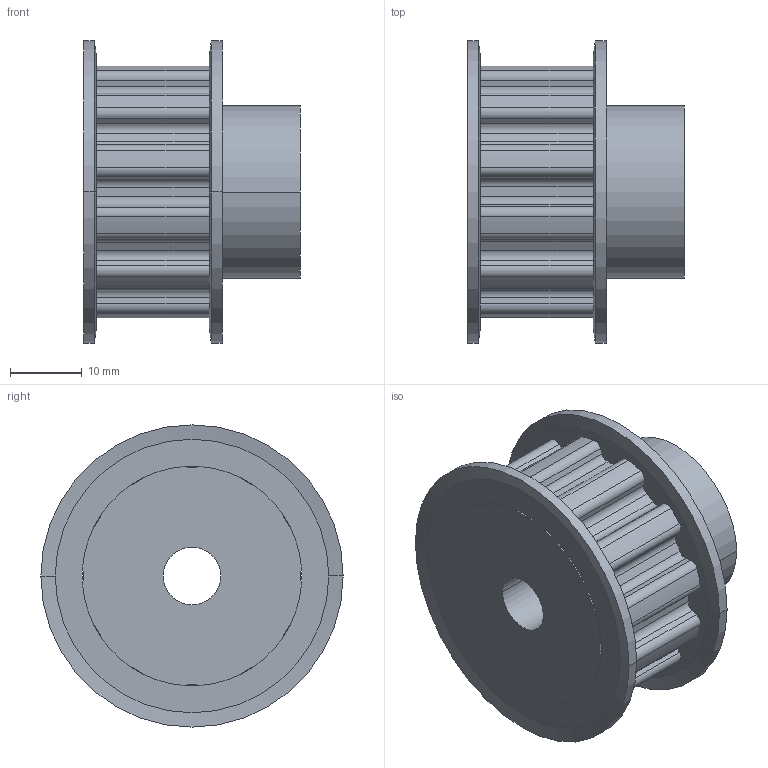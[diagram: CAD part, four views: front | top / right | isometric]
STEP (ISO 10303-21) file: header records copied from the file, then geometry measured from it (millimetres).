
FILE_DESCRIPTION( ( '' ), '1' );
FILE_NAME( 'C:/Users/Stangenbergd/Documents/CAD_Step/1/18211200.stp', '2021-10-19T10:34:42', ( '' ), ( '' ), ' ', ' ', ' ' );
FILE_SCHEMA( ( 'CONFIG_CONTROL_DESIGN' ) );
Length unit declared in the file: millimetre
Products named in the file (1): 1
Bounding box: 30.13 x 42 x 42 mm (x, y, z)
Volume: 21486.2 mm3; surface area: 8082.2 mm2
Topology: 1 solids, 1 shells, 171 faces, 580 edges, 368 vertices
Faces by surface type: cylinder 120, plane 43, cone 8
Entity records: 6526 total; most frequent: DIRECTION 1220, ORIENTED_EDGE 1160, CARTESIAN_POINT 1120, EDGE_CURVE 580, AXIS2_PLACEMENT_3D 468, VERTEX_POINT 368, CIRCLE 296, LINE 284
